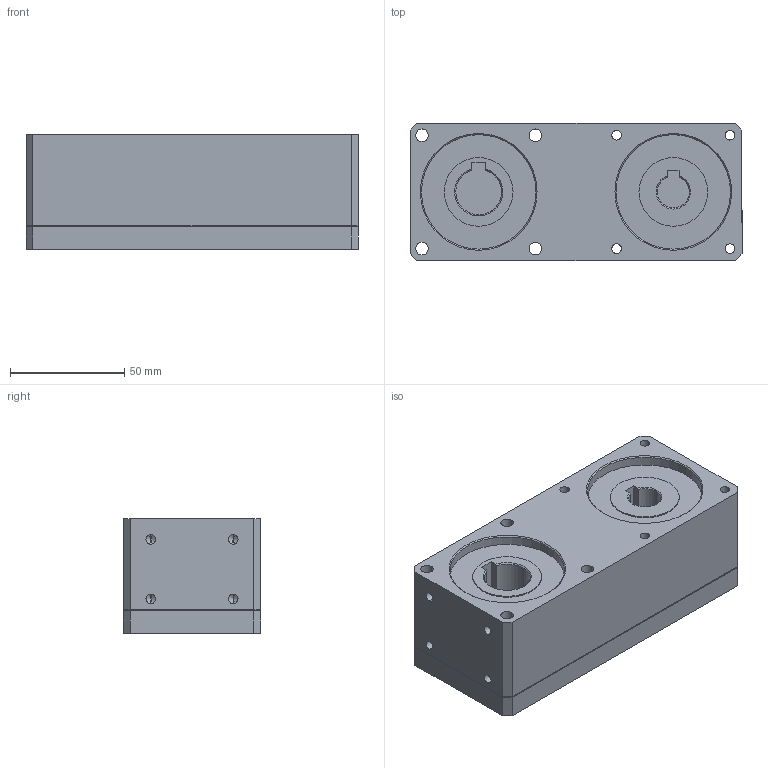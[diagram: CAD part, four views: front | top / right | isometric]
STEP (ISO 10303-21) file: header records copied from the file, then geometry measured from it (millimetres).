
FILE_DESCRIPTION (( 'STEP AP214' ), '1' );
FILE_NAME ('JZ085淕儂.STEP', '2021-12-11T07:05:27', ( '' ), ( '' ), 'SwSTEP 2.0', 'SolidWorks 2020', '' );
FILE_SCHEMA (( 'AUTOMOTIVE_DESIGN' ));
Length unit declared in the file: millimetre
Products named in the file (1): JZ085淕儂
Bounding box: 145 x 60 x 50 mm (x, y, z)
Volume: 382042.5 mm3; surface area: 55869.1 mm2
Topology: 1 solids, 1 shells, 160 faces, 366 edges, 220 vertices
Faces by surface type: cylinder 74, plane 60, cone 26
Entity records: 4924 total; most frequent: DIRECTION 826, CARTESIAN_POINT 743, ORIENTED_EDGE 700, EDGE_CURVE 350, AXIS2_PLACEMENT_3D 319, VERTEX_POINT 220, EDGE_LOOP 204, VECTOR 188
